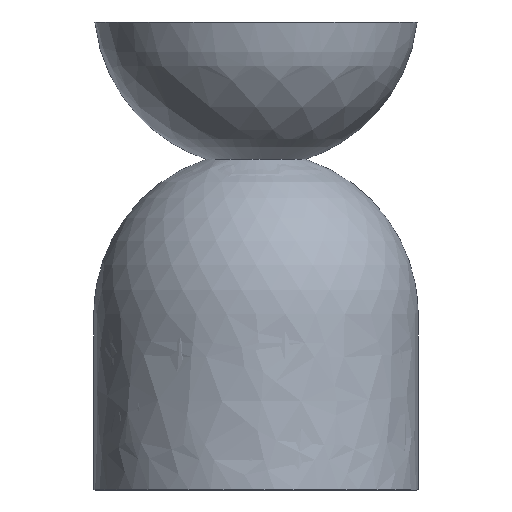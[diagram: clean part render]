
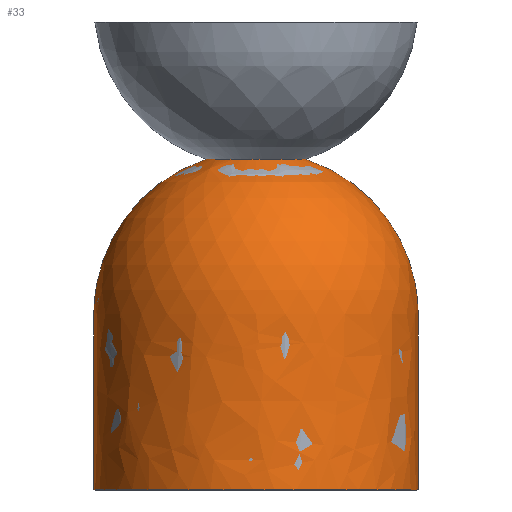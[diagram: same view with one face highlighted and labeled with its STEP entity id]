
A CAD part, front view. The second image highlights one B-rep face of the part: STEP entity #33.
In plain terms, the highlighted free-form (B-spline) face has degree [2, 2] with [5, 5] control points.
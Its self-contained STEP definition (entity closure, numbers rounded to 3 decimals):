
#33=ADVANCED_FACE('',(#59),#345,.T.);
#59=FACE_OUTER_BOUND('',#85,.T.);
#85=EDGE_LOOP('',(#165,#166,#167,#168));
#165=ORIENTED_EDGE('',*,*,#234,.T.);
#166=ORIENTED_EDGE('',*,*,#235,.T.);
#167=ORIENTED_EDGE('',*,*,#207,.F.);
#168=ORIENTED_EDGE('',*,*,#233,.F.);
#207=EDGE_CURVE('',#310,#309,#269,.T.);
#233=EDGE_CURVE('',#319,#310,#291,.T.);
#234=EDGE_CURVE('',#319,#320,#292,.T.);
#235=EDGE_CURVE('',#320,#309,#293,.T.);
#269=(
BOUNDED_CURVE()
B_SPLINE_CURVE(2,(#771,#772,#773,#774,#775),.UNSPECIFIED.,.F.,.F.)
B_SPLINE_CURVE_WITH_KNOTS((3,2,3),(942.87,974.263,998.798),
 .UNSPECIFIED.)
CURVE()
GEOMETRIC_REPRESENTATION_ITEM()
RATIONAL_B_SPLINE_CURVE((1.,0.809,1.,1.,1.))
REPRESENTATION_ITEM('')
);
#291=(
BOUNDED_CURVE()
B_SPLINE_CURVE(2,(#881,#882,#883,#884,#885),.UNSPECIFIED.,.F.,.F.)
B_SPLINE_CURVE_WITH_KNOTS((3,2,3),(628.319,942.478,1256.637),
 .UNSPECIFIED.)
CURVE()
GEOMETRIC_REPRESENTATION_ITEM()
RATIONAL_B_SPLINE_CURVE((1.,0.707,1.,0.707,1.))
REPRESENTATION_ITEM('')
);
#292=(
BOUNDED_CURVE()
B_SPLINE_CURVE(2,(#886,#887,#888,#889,#890),.UNSPECIFIED.,.F.,.F.)
B_SPLINE_CURVE_WITH_KNOTS((3,2,3),(942.87,974.263,998.798),
 .UNSPECIFIED.)
CURVE()
GEOMETRIC_REPRESENTATION_ITEM()
RATIONAL_B_SPLINE_CURVE((1.,0.809,1.,1.,1.))
REPRESENTATION_ITEM('')
);
#293=(
BOUNDED_CURVE()
B_SPLINE_CURVE(2,(#891,#892,#893,#894,#895),.UNSPECIFIED.,.F.,.F.)
B_SPLINE_CURVE_WITH_KNOTS((3,2,3),(628.319,942.478,1256.637),
 .UNSPECIFIED.)
CURVE()
GEOMETRIC_REPRESENTATION_ITEM()
RATIONAL_B_SPLINE_CURVE((1.,0.707,1.,0.707,1.))
REPRESENTATION_ITEM('')
);
#309=VERTEX_POINT('',#727);
#310=VERTEX_POINT('',#728);
#319=VERTEX_POINT('',#737);
#320=VERTEX_POINT('',#738);
#345=(
BOUNDED_SURFACE()
B_SPLINE_SURFACE(2,2,((#609,#610,#611,#612,#613),(#614,#615,#616,#617,#618),
(#619,#620,#621,#622,#623),(#624,#625,#626,#627,#628),(#629,#630,#631,#632,
#633)),.UNSPECIFIED.,.F.,.F.,.F.)
B_SPLINE_SURFACE_WITH_KNOTS((3,2,3),(3,2,3),(942.87,974.263,
998.798),(628.319,942.478,1256.637),
 .UNSPECIFIED.)
GEOMETRIC_REPRESENTATION_ITEM()
RATIONAL_B_SPLINE_SURFACE(((1.,0.707,1.,0.707,1.),
(0.809,0.572,0.809,0.572,
0.809),(1.,0.707,1.,0.707,1.),(1.,0.707,
1.,0.707,1.),(1.,0.707,1.,0.707,1.)))
REPRESENTATION_ITEM('')
SURFACE()
);
#609=CARTESIAN_POINT('',(-61.285,0.,408.097));
#610=CARTESIAN_POINT('',(-61.285,-61.285,408.097));
#611=CARTESIAN_POINT('',(0.,-61.285,408.097));
#612=CARTESIAN_POINT('',(61.285,-61.285,408.097));
#613=CARTESIAN_POINT('',(61.285,0.,408.097));
#614=CARTESIAN_POINT('',(-200.,0.,362.885));
#615=CARTESIAN_POINT('',(-200.,-200.,362.885));
#616=CARTESIAN_POINT('',(0.,-200.,362.885));
#617=CARTESIAN_POINT('',(200.,-200.,362.885));
#618=CARTESIAN_POINT('',(200.,0.,362.885));
#619=CARTESIAN_POINT('',(-200.,0.,216.989));
#620=CARTESIAN_POINT('',(-200.,-200.,216.989));
#621=CARTESIAN_POINT('',(0.,-200.,216.989));
#622=CARTESIAN_POINT('',(200.,-200.,216.989));
#623=CARTESIAN_POINT('',(200.,0.,216.989));
#624=CARTESIAN_POINT('',(-200.,0.,108.494));
#625=CARTESIAN_POINT('',(-200.,-200.,108.494));
#626=CARTESIAN_POINT('',(0.,-200.,108.494));
#627=CARTESIAN_POINT('',(200.,-200.,108.494));
#628=CARTESIAN_POINT('',(200.,0.,108.494));
#629=CARTESIAN_POINT('',(-200.,0.,0.));
#630=CARTESIAN_POINT('',(-200.,-200.,0.));
#631=CARTESIAN_POINT('',(0.,-200.,0.));
#632=CARTESIAN_POINT('',(200.,-200.,0.));
#633=CARTESIAN_POINT('',(200.,0.,0.));
#727=CARTESIAN_POINT('',(200.,0.,0.));
#728=CARTESIAN_POINT('',(61.285,0.,408.097));
#737=CARTESIAN_POINT('',(-61.285,0.,408.097));
#738=CARTESIAN_POINT('',(-200.,0.,0.));
#771=CARTESIAN_POINT('',(61.285,0.,408.097));
#772=CARTESIAN_POINT('',(200.,0.,362.885));
#773=CARTESIAN_POINT('',(200.,0.,216.989));
#774=CARTESIAN_POINT('',(200.,0.,108.494));
#775=CARTESIAN_POINT('',(200.,0.,0.));
#881=CARTESIAN_POINT('',(-61.285,0.,408.097));
#882=CARTESIAN_POINT('',(-61.285,-61.285,408.097));
#883=CARTESIAN_POINT('',(0.,-61.285,408.097));
#884=CARTESIAN_POINT('',(61.285,-61.285,408.097));
#885=CARTESIAN_POINT('',(61.285,0.,408.097));
#886=CARTESIAN_POINT('',(-61.285,0.,408.097));
#887=CARTESIAN_POINT('',(-200.,0.,362.885));
#888=CARTESIAN_POINT('',(-200.,0.,216.989));
#889=CARTESIAN_POINT('',(-200.,0.,108.494));
#890=CARTESIAN_POINT('',(-200.,0.,0.));
#891=CARTESIAN_POINT('',(-200.,0.,0.));
#892=CARTESIAN_POINT('',(-200.,-200.,0.));
#893=CARTESIAN_POINT('',(0.,-200.,0.));
#894=CARTESIAN_POINT('',(200.,-200.,0.));
#895=CARTESIAN_POINT('',(200.,0.,0.));
